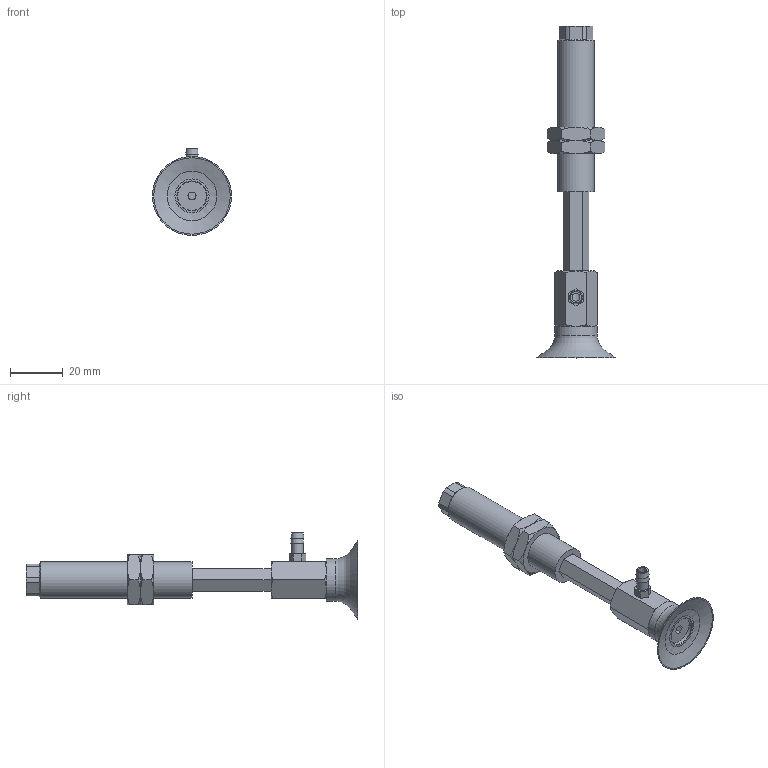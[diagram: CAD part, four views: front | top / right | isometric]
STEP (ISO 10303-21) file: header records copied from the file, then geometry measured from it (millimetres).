
FILE_DESCRIPTION(('STEP AP203'),'1');
FILE_NAME('-T.stp','2025-04-10T07:49:44',(' '),(' '),'Spatial InterOp 3D',' ',' ');
FILE_SCHEMA(('CONFIG_CONTROL_DESIGN'));
Length unit declared in the file: millimetre
Products named in the file (8): BNABPFYH-30-30-※-T; TN-PF-30-M6-NAPF; CONNECTOR-H-30-30; Nut-30-30-h; NAPFTH-30-30-FBODY; NAPFTH-30-30-MBODY; BPFG-30-※; T
Assembly tree (8 placements, depth 2):
  BNABPFYH-30-30-※-T
    TN-PF-30-M6-NAPF
    CONNECTOR-H-30-30
    Nut-30-30-h  x2
    NAPFTH-30-30-FBODY
    NAPFTH-30-30-MBODY
    BPFG-30-※
    T
Bounding box: 30 x 126 x 33 mm (x, y, z)
Volume: 18702.1 mm3; surface area: 14783.2 mm2
Topology: 8 solids, 8 shells, 173 faces, 369 edges, 226 vertices
Faces by surface type: plane 90, cone 54, cylinder 23, torus 5, bspline 1
Full cylindrical faces by diameter (mm): 3 x3, 4.134 x2, 4.3 x1, 4.917 x1, 5 x2, 6 x2, 11 x2, 12.917 x2, 14 x1, 16 x1
Entity records: 4545 total; most frequent: CARTESIAN_POINT 1057, DIRECTION 644, ORIENTED_EDGE 564, EDGE_CURVE 282, AXIS2_PLACEMENT_3D 255, EDGE_LOOP 214, VERTEX_POINT 196, FACE_OUTER_BOUND 172
